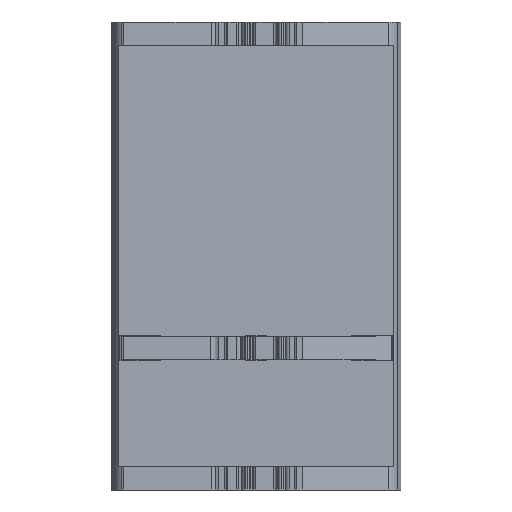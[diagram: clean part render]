
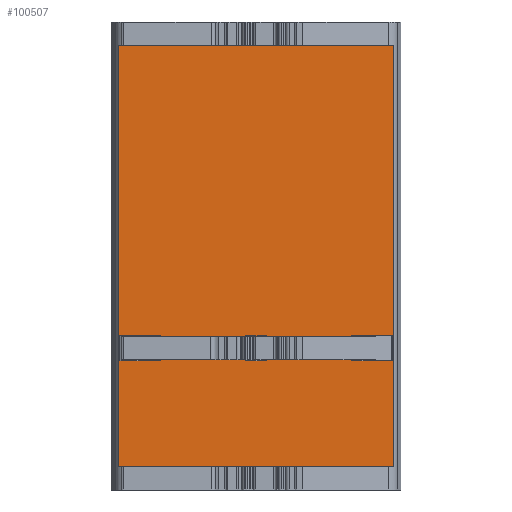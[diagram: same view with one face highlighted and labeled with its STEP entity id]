
A CAD part, front view. The second image highlights one B-rep face of the part: STEP entity #100507.
In plain terms, the highlighted planar face has unit normal (0, -1, 0).
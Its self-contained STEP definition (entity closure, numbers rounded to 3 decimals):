
#311 = LINE ( 'NONE', #63127, #232356 ) ;
#2373 = VERTEX_POINT ( 'NONE', #86310 ) ;
#3460 = EDGE_CURVE ( 'NONE', #33927, #19057, #228857, .T. ) ;
#3861 = DIRECTION ( 'NONE',  ( 0., 0., 1. ) ) ;
#5126 = CARTESIAN_POINT ( 'NONE',  ( -48.274, -31.657, -29.25 ) ) ;
#5284 = DIRECTION ( 'NONE',  ( -1., 0., 0. ) ) ;
#6210 = CARTESIAN_POINT ( 'NONE',  ( 51.85, -31.657, 75. ) ) ;
#6896 = DIRECTION ( 'NONE',  ( -1., 0., 0. ) ) ;
#9725 = VERTEX_POINT ( 'NONE', #199552 ) ;
#10153 = DIRECTION ( 'NONE',  ( -1., 0., 0. ) ) ;
#11780 = CARTESIAN_POINT ( 'NONE',  ( 34.123, -31.657, 75. ) ) ;
#12726 = LINE ( 'NONE', #33658, #56347 ) ;
#19057 = VERTEX_POINT ( 'NONE', #56135 ) ;
#19930 = DIRECTION ( 'NONE',  ( 1., 0., 0. ) ) ;
#20343 = CARTESIAN_POINT ( 'NONE',  ( 51.85, -31.657, -18.25 ) ) ;
#20897 = DIRECTION ( 'NONE',  ( -1., 0., 0. ) ) ;
#23007 = VECTOR ( 'NONE', #146293, 1000. ) ;
#23848 = EDGE_CURVE ( 'NONE', #19057, #215298, #132801, .T. ) ;
#27375 = CARTESIAN_POINT ( 'NONE',  ( -69.674, -31.657, -29.25 ) ) ;
#28974 = EDGE_LOOP ( 'NONE', ( #121433, #238826, #42317, #154181 ) ) ;
#29116 = CARTESIAN_POINT ( 'NONE',  ( -69.674, -31.657, -18.25 ) ) ;
#33631 = ORIENTED_EDGE ( 'NONE', *, *, #188319, .F. ) ;
#33658 = CARTESIAN_POINT ( 'NONE',  ( -69.674, -31.657, -75. ) ) ;
#33927 = VERTEX_POINT ( 'NONE', #212219 ) ;
#35338 = CARTESIAN_POINT ( 'NONE',  ( -66.317, -31.657, -29.25 ) ) ;
#38085 = LINE ( 'NONE', #102196, #246534 ) ;
#40534 = LINE ( 'NONE', #198921, #139256 ) ;
#42317 = ORIENTED_EDGE ( 'NONE', *, *, #3460, .F. ) ;
#44637 = LINE ( 'NONE', #162475, #196356 ) ;
#46007 = ORIENTED_EDGE ( 'NONE', *, *, #153478, .F. ) ;
#47019 = FACE_OUTER_BOUND ( 'NONE', #139761, .T. ) ;
#50628 = VERTEX_POINT ( 'NONE', #214058 ) ;
#52577 = ORIENTED_EDGE ( 'NONE', *, *, #69618, .F. ) ;
#56135 = CARTESIAN_POINT ( 'NONE',  ( -2.674, -31.657, -29.25 ) ) ;
#56347 = VECTOR ( 'NONE', #10153, 1000. ) ;
#57138 = DIRECTION ( 'NONE',  ( 0., 0., -1. ) ) ;
#58036 = VECTOR ( 'NONE', #6896, 1000. ) ;
#60048 = VECTOR ( 'NONE', #172575, 1000. ) ;
#62600 = EDGE_CURVE ( 'NONE', #222353, #165711, #166640, .T. ) ;
#63127 = CARTESIAN_POINT ( 'NONE',  ( -69.674, -31.657, 107.2 ) ) ;
#64104 = VERTEX_POINT ( 'NONE', #158654 ) ;
#65658 = EDGE_CURVE ( 'NONE', #185196, #98715, #40534, .T. ) ;
#65879 = EDGE_CURVE ( 'NONE', #50628, #33927, #111099, .T. ) ;
#67761 = LINE ( 'NONE', #6210, #252675 ) ;
#69618 = EDGE_CURVE ( 'NONE', #64104, #207680, #311, .T. ) ;
#76512 = DIRECTION ( 'NONE',  ( 0., 0., 1. ) ) ;
#78111 = EDGE_CURVE ( 'NONE', #9725, #191032, #125368, .T. ) ;
#78242 = EDGE_CURVE ( 'NONE', #114964, #2373, #12726, .T. ) ;
#79429 = VECTOR ( 'NONE', #5284, 1000. ) ;
#81626 = VERTEX_POINT ( 'NONE', #5126 ) ;
#86310 = CARTESIAN_POINT ( 'NONE',  ( -66.742, -31.657, -75. ) ) ;
#87404 = DIRECTION ( 'NONE',  ( 0., 0., 1. ) ) ;
#87860 = CARTESIAN_POINT ( 'NONE',  ( 51.85, -31.657, -29.25 ) ) ;
#90099 = VECTOR ( 'NONE', #76512, 1000. ) ;
#92768 = CARTESIAN_POINT ( 'NONE',  ( -11.674, -31.657, 75. ) ) ;
#96520 = EDGE_CURVE ( 'NONE', #215298, #50628, #190062, .T. ) ;
#98390 = ORIENTED_EDGE ( 'NONE', *, *, #247624, .F. ) ;
#98715 = VERTEX_POINT ( 'NONE', #251627 ) ;
#99615 = DIRECTION ( 'NONE',  ( 0., 0., 1. ) ) ;
#100507 = ADVANCED_FACE ( 'NONE', ( #167403, #166115, #126848, #47019 ), #163541, .F. ) ;
#101632 = DIRECTION ( 'NONE',  ( 1., 0., 0. ) ) ;
#102196 = CARTESIAN_POINT ( 'NONE',  ( -66.742, -31.657, 75. ) ) ;
#111099 = LINE ( 'NONE', #92768, #60048 ) ;
#114964 = VERTEX_POINT ( 'NONE', #136294 ) ;
#121245 = LINE ( 'NONE', #201057, #185207 ) ;
#121433 = ORIENTED_EDGE ( 'NONE', *, *, #96520, .F. ) ;
#125368 = LINE ( 'NONE', #186836, #23007 ) ;
#125536 = CARTESIAN_POINT ( 'NONE',  ( -69.674, -31.657, 75. ) ) ;
#126848 = FACE_BOUND ( 'NONE', #203345, .T. ) ;
#130521 = ORIENTED_EDGE ( 'NONE', *, *, #78242, .F. ) ;
#130913 = CARTESIAN_POINT ( 'NONE',  ( 34.123, -31.657, -29.25 ) ) ;
#132801 = LINE ( 'NONE', #198099, #90099 ) ;
#136294 = CARTESIAN_POINT ( 'NONE',  ( 52.063, -31.657, -75. ) ) ;
#139256 = VECTOR ( 'NONE', #20897, 1000. ) ;
#139761 = EDGE_LOOP ( 'NONE', ( #46007, #52577, #257908, #130521 ) ) ;
#140563 = EDGE_CURVE ( 'NONE', #168887, #9725, #185865, .T. ) ;
#142770 = CARTESIAN_POINT ( 'NONE',  ( -69.674, -31.657, -18.25 ) ) ;
#146293 = DIRECTION ( 'NONE',  ( 0., 0., -1. ) ) ;
#151085 = VECTOR ( 'NONE', #57138, 1000. ) ;
#153478 = EDGE_CURVE ( 'NONE', #207680, #114964, #253432, .T. ) ;
#154181 = ORIENTED_EDGE ( 'NONE', *, *, #65879, .F. ) ;
#157885 = EDGE_CURVE ( 'NONE', #191032, #81626, #121245, .T. ) ;
#158654 = CARTESIAN_POINT ( 'NONE',  ( -66.742, -31.657, 107.2 ) ) ;
#162475 = CARTESIAN_POINT ( 'NONE',  ( -48.274, -31.657, 75. ) ) ;
#163541 = PLANE ( 'NONE',  #205371 ) ;
#164050 = DIRECTION ( 'NONE',  ( 1., 0., 0. ) ) ;
#165711 = VERTEX_POINT ( 'NONE', #87860 ) ;
#166115 = FACE_BOUND ( 'NONE', #28974, .T. ) ;
#166640 = LINE ( 'NONE', #169242, #185021 ) ;
#167403 = FACE_BOUND ( 'NONE', #205737, .T. ) ;
#168887 = VERTEX_POINT ( 'NONE', #254626 ) ;
#169242 = CARTESIAN_POINT ( 'NONE',  ( -69.674, -31.657, -29.25 ) ) ;
#171454 = DIRECTION ( 'NONE',  ( 0., 0., -1. ) ) ;
#172575 = DIRECTION ( 'NONE',  ( 0., 0., -1. ) ) ;
#182938 = VECTOR ( 'NONE', #171454, 1000. ) ;
#185021 = VECTOR ( 'NONE', #164050, 1000. ) ;
#185196 = VERTEX_POINT ( 'NONE', #20343 ) ;
#185207 = VECTOR ( 'NONE', #101632, 1000. ) ;
#185865 = LINE ( 'NONE', #142770, #79429 ) ;
#186836 = CARTESIAN_POINT ( 'NONE',  ( -66.317, -31.657, 75. ) ) ;
#187005 = DIRECTION ( 'NONE',  ( 0., 1., 0. ) ) ;
#188319 = EDGE_CURVE ( 'NONE', #81626, #168887, #44637, .T. ) ;
#188599 = EDGE_CURVE ( 'NONE', #2373, #64104, #38085, .T. ) ;
#190062 = LINE ( 'NONE', #29116, #58036 ) ;
#191032 = VERTEX_POINT ( 'NONE', #35338 ) ;
#196356 = VECTOR ( 'NONE', #242214, 1000. ) ;
#196572 = EDGE_CURVE ( 'NONE', #165711, #185196, #67761, .T. ) ;
#198099 = CARTESIAN_POINT ( 'NONE',  ( -2.674, -31.657, 75. ) ) ;
#198921 = CARTESIAN_POINT ( 'NONE',  ( -69.674, -31.657, -18.25 ) ) ;
#199552 = CARTESIAN_POINT ( 'NONE',  ( -66.317, -31.657, -18.25 ) ) ;
#201057 = CARTESIAN_POINT ( 'NONE',  ( -69.674, -31.657, -29.25 ) ) ;
#202808 = VECTOR ( 'NONE', #210581, 1000. ) ;
#203345 = EDGE_LOOP ( 'NONE', ( #232720, #33631, #205513, #237843 ) ) ;
#205191 = ORIENTED_EDGE ( 'NONE', *, *, #196572, .F. ) ;
#205371 = AXIS2_PLACEMENT_3D ( 'NONE', #125536, #187005, #3861 ) ;
#205513 = ORIENTED_EDGE ( 'NONE', *, *, #157885, .F. ) ;
#205737 = EDGE_LOOP ( 'NONE', ( #215647, #205191, #233845, #98390 ) ) ;
#207680 = VERTEX_POINT ( 'NONE', #256115 ) ;
#210581 = DIRECTION ( 'NONE',  ( 1., 0., 0. ) ) ;
#210718 = CARTESIAN_POINT ( 'NONE',  ( -2.674, -31.657, -18.25 ) ) ;
#212219 = CARTESIAN_POINT ( 'NONE',  ( -11.674, -31.657, -29.25 ) ) ;
#214058 = CARTESIAN_POINT ( 'NONE',  ( -11.674, -31.657, -18.25 ) ) ;
#215298 = VERTEX_POINT ( 'NONE', #210718 ) ;
#215461 = CARTESIAN_POINT ( 'NONE',  ( 52.063, -31.657, 75. ) ) ;
#215647 = ORIENTED_EDGE ( 'NONE', *, *, #65658, .F. ) ;
#222353 = VERTEX_POINT ( 'NONE', #130913 ) ;
#228857 = LINE ( 'NONE', #27375, #202808 ) ;
#232356 = VECTOR ( 'NONE', #19930, 1000. ) ;
#232720 = ORIENTED_EDGE ( 'NONE', *, *, #140563, .F. ) ;
#233845 = ORIENTED_EDGE ( 'NONE', *, *, #62600, .F. ) ;
#237843 = ORIENTED_EDGE ( 'NONE', *, *, #78111, .F. ) ;
#238826 = ORIENTED_EDGE ( 'NONE', *, *, #23848, .F. ) ;
#242214 = DIRECTION ( 'NONE',  ( 0., 0., 1. ) ) ;
#246534 = VECTOR ( 'NONE', #99615, 1000. ) ;
#247624 = EDGE_CURVE ( 'NONE', #98715, #222353, #253810, .T. ) ;
#251627 = CARTESIAN_POINT ( 'NONE',  ( 34.123, -31.657, -18.25 ) ) ;
#252675 = VECTOR ( 'NONE', #87404, 1000. ) ;
#253432 = LINE ( 'NONE', #215461, #151085 ) ;
#253810 = LINE ( 'NONE', #11780, #182938 ) ;
#254626 = CARTESIAN_POINT ( 'NONE',  ( -48.274, -31.657, -18.25 ) ) ;
#256115 = CARTESIAN_POINT ( 'NONE',  ( 52.063, -31.657, 107.2 ) ) ;
#257908 = ORIENTED_EDGE ( 'NONE', *, *, #188599, .F. ) ;
